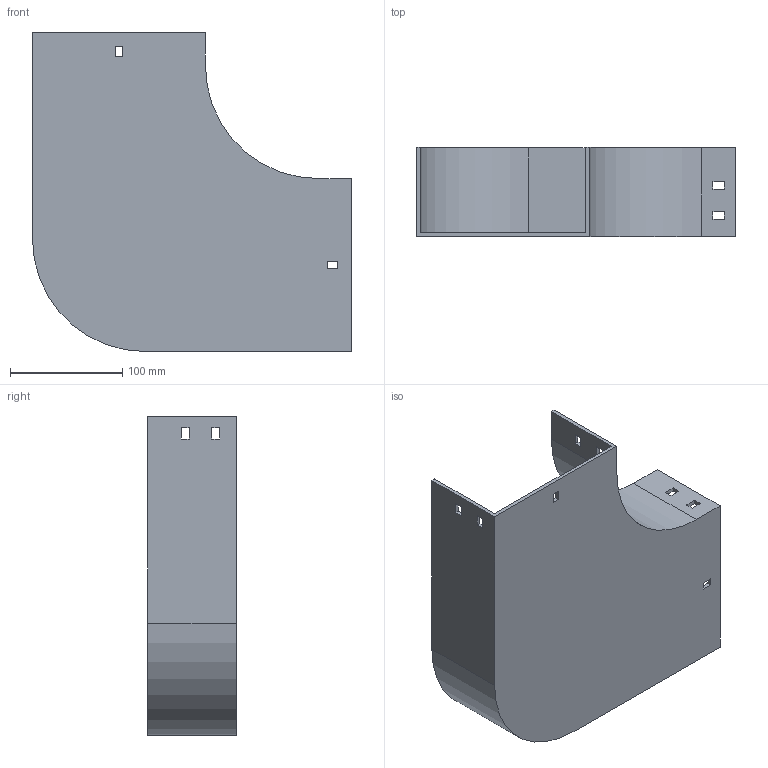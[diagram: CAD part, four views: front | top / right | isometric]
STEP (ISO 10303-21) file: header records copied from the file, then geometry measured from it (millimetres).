
FILE_DESCRIPTION (( 'STEP AP214' ), '1' );
FILE_NAME ('10F1C150.step', '2025-02-21T12:57:29', ( '' ), ( '' ), 'SwSTEP 2.0', 'SolidWorks 2023', '' );
FILE_SCHEMA (( 'AUTOMOTIVE_DESIGN' ));
Length unit declared in the file: millimetre
Products named in the file (1): 10F1C150
Bounding box: 284 x 79 x 284 mm (x, y, z)
Volume: 416892.1 mm3; surface area: 244125.6 mm2
Topology: 1 solids, 1 shells, 58 faces, 168 edges, 112 vertices
Faces by surface type: plane 54, cylinder 4
Entity records: 1943 total; most frequent: CARTESIAN_POINT 339, ORIENTED_EDGE 336, DIRECTION 294, EDGE_CURVE 168, LINE 160, VECTOR 160, VERTEX_POINT 112, EDGE_LOOP 78
